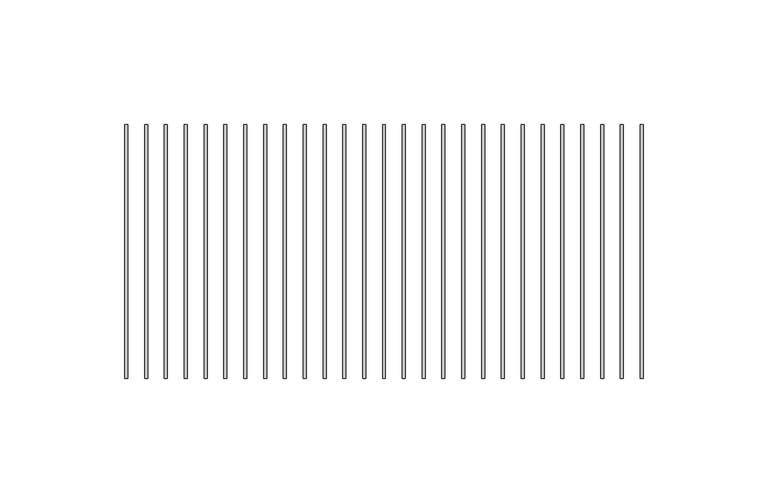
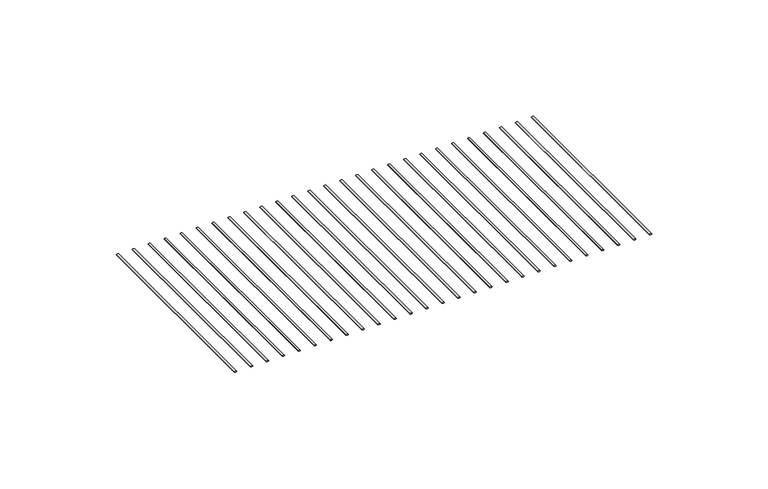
"""IFC4 building model written with IfcOpenShell, lengths in millimetres: proxy geometry, CRAi Generic Model Mesh Piece Face Based : CRAi Generic Model Mesh Piece Face Based."""

from ifc_helpers import new_model, si_unit, point, frame, origin, place, context, project, spatial, ellipse_curve, trimmed, source, transform, mapped, element, save
from ifc_brep_helpers import plane_surface, extruded_surface, advanced_brep


def generic_models_672f9cdd(model_context):
    return source(origin(), model_context, "Body", "AdvancedBrep", [
        advanced_brep(
        [(-260.1515625, 50.8, -2.5796875), (-258.9609375, 50.8, -2.5796875), (-260.1515625, -50.8, -2.5796875), (-258.9609375, -50.8, -2.5796875)],
        [
            (0, 1, ellipse_curve(frame((-259.55625, 50.8, -2.5796875), z_axis=(0.0, 1.0, 0.0), x_axis=(1.0, 0.0, 0.0)), 0.5953125, 0.1984375)),
            (1, 0, ellipse_curve(frame((-259.55625, 50.8, -2.5796875), z_axis=(0.0, 1.0, 0.0), x_axis=(1.0, 0.0, 0.0)), 0.5953125, 0.1984375)),
            (2, 3, ellipse_curve(frame((-259.55625, -50.8, -2.5796875), z_axis=(0.0, -1.0, 0.0), x_axis=(1.0, 0.0, 0.0)), 0.5953125, 0.1984375)),
            (3, 2, ellipse_curve(frame((-259.55625, -50.8, -2.5796875), z_axis=(0.0, -1.0, 0.0), x_axis=(1.0, 0.0, 0.0)), 0.5953125, 0.1984375)),
            (1, 3),
            (2, 0),
        ],
        [
            plane_surface(frame((-259.55625, 50.8, -2.5796875), z_axis=(0.0, 1.0, 0.0), x_axis=(0.0, 0.0, 1.0))),
            plane_surface(frame((-259.55625, -50.8, -2.5796875), z_axis=(0.0, -1.0, 0.0), x_axis=(0.0, 0.0, 1.0))),
            extruded_surface(trimmed(ellipse_curve(frame((-259.55625, 50.8, -2.5796875), z_axis=(0.0, -1.0, 0.0), x_axis=(1.0, 0.0, 0.0)), 0.5953125, 0.1984375), [point((-260.1515625, 50.8, -2.5796875))], [point((-258.9609375, 50.8, -2.5796875))], True, "CARTESIAN"), (0.0, -101.6, 0.0), 101.6),
            extruded_surface(trimmed(ellipse_curve(frame((-259.55625, 50.8, -2.5796875), z_axis=(0.0, -1.0, 0.0), x_axis=(1.0, 0.0, 0.0)), 0.5953125, 0.1984375), [point((-258.9609375, 50.8, -2.5796875))], [point((-260.1515625, 50.8, -2.5796875))], True, "CARTESIAN"), (0.0, -101.6, 0.0), 101.6),
        ],
        [
            (0, [[1, 2]]),
            (1, [[3, 4]]),
            (2, [[5, -3, 6, -2]]),
            (3, [[-6, -4, -5, -1]]),
        ],
    ),
        advanced_brep(
        [(-252.2140625, 50.8, -2.5796875), (-251.0234375, 50.8, -2.5796875), (-252.2140625, -50.8, -2.5796875), (-251.0234375, -50.8, -2.5796875)],
        [
            (0, 1, ellipse_curve(frame((-251.61875, 50.8, -2.5796875), z_axis=(0.0, 1.0, 0.0), x_axis=(1.0, 0.0, 0.0)), 0.5953125, 0.1984375)),
            (1, 0, ellipse_curve(frame((-251.61875, 50.8, -2.5796875), z_axis=(0.0, 1.0, 0.0), x_axis=(1.0, 0.0, 0.0)), 0.5953125, 0.1984375)),
            (2, 3, ellipse_curve(frame((-251.61875, -50.8, -2.5796875), z_axis=(0.0, -1.0, 0.0), x_axis=(1.0, 0.0, 0.0)), 0.5953125, 0.1984375)),
            (3, 2, ellipse_curve(frame((-251.61875, -50.8, -2.5796875), z_axis=(0.0, -1.0, 0.0), x_axis=(1.0, 0.0, 0.0)), 0.5953125, 0.1984375)),
            (1, 3),
            (2, 0),
        ],
        [
            plane_surface(frame((-251.61875, 50.8, -2.5796875), z_axis=(0.0, 1.0, 0.0), x_axis=(0.0, 0.0, 1.0))),
            plane_surface(frame((-251.61875, -50.8, -2.5796875), z_axis=(0.0, -1.0, 0.0), x_axis=(0.0, 0.0, 1.0))),
            extruded_surface(trimmed(ellipse_curve(frame((-251.61875, 50.8, -2.5796875), z_axis=(0.0, -1.0, 0.0), x_axis=(1.0, 0.0, 0.0)), 0.5953125, 0.1984375), [point((-252.2140625, 50.8, -2.5796875))], [point((-251.0234375, 50.8, -2.5796875))], True, "CARTESIAN"), (0.0, -101.6, 0.0), 101.6),
            extruded_surface(trimmed(ellipse_curve(frame((-251.61875, 50.8, -2.5796875), z_axis=(0.0, -1.0, 0.0), x_axis=(1.0, 0.0, 0.0)), 0.5953125, 0.1984375), [point((-251.0234375, 50.8, -2.5796875))], [point((-252.2140625, 50.8, -2.5796875))], True, "CARTESIAN"), (0.0, -101.6, 0.0), 101.6),
        ],
        [
            (0, [[1, 2]]),
            (1, [[3, 4]]),
            (2, [[5, -3, 6, -2]]),
            (3, [[-6, -4, -5, -1]]),
        ],
    ),
        advanced_brep(
        [(-244.2765625, 50.8, -2.5796875), (-243.0859375, 50.8, -2.5796875), (-244.2765625, -50.8, -2.5796875), (-243.0859375, -50.8, -2.5796875)],
        [
            (0, 1, ellipse_curve(frame((-243.68125, 50.8, -2.5796875), z_axis=(0.0, 1.0, 0.0), x_axis=(1.0, 0.0, 0.0)), 0.5953125, 0.1984375)),
            (1, 0, ellipse_curve(frame((-243.68125, 50.8, -2.5796875), z_axis=(0.0, 1.0, 0.0), x_axis=(1.0, 0.0, 0.0)), 0.5953125, 0.1984375)),
            (2, 3, ellipse_curve(frame((-243.68125, -50.8, -2.5796875), z_axis=(0.0, -1.0, 0.0), x_axis=(1.0, 0.0, 0.0)), 0.5953125, 0.1984375)),
            (3, 2, ellipse_curve(frame((-243.68125, -50.8, -2.5796875), z_axis=(0.0, -1.0, 0.0), x_axis=(1.0, 0.0, 0.0)), 0.5953125, 0.1984375)),
            (1, 3),
            (2, 0),
        ],
        [
            plane_surface(frame((-243.68125, 50.8, -2.5796875), z_axis=(0.0, 1.0, 0.0), x_axis=(0.0, 0.0, 1.0))),
            plane_surface(frame((-243.68125, -50.8, -2.5796875), z_axis=(0.0, -1.0, 0.0), x_axis=(0.0, 0.0, 1.0))),
            extruded_surface(trimmed(ellipse_curve(frame((-243.68125, 50.8, -2.5796875), z_axis=(0.0, -1.0, 0.0), x_axis=(1.0, 0.0, 0.0)), 0.5953125, 0.1984375), [point((-244.2765625, 50.8, -2.5796875))], [point((-243.0859375, 50.8, -2.5796875))], True, "CARTESIAN"), (0.0, -101.6, 0.0), 101.6),
            extruded_surface(trimmed(ellipse_curve(frame((-243.68125, 50.8, -2.5796875), z_axis=(0.0, -1.0, 0.0), x_axis=(1.0, 0.0, 0.0)), 0.5953125, 0.1984375), [point((-243.0859375, 50.8, -2.5796875))], [point((-244.2765625, 50.8, -2.5796875))], True, "CARTESIAN"), (0.0, -101.6, 0.0), 101.6),
        ],
        [
            (0, [[1, 2]]),
            (1, [[3, 4]]),
            (2, [[5, -3, 6, -2]]),
            (3, [[-6, -4, -5, -1]]),
        ],
    ),
        advanced_brep(
        [(-236.3390625, 50.8, -2.5796875), (-235.1484375, 50.8, -2.5796875), (-236.3390625, -50.8, -2.5796875), (-235.1484375, -50.8, -2.5796875)],
        [
            (0, 1, ellipse_curve(frame((-235.74375, 50.8, -2.5796875), z_axis=(0.0, 1.0, 0.0), x_axis=(1.0, 0.0, 0.0)), 0.5953125, 0.1984375)),
            (1, 0, ellipse_curve(frame((-235.74375, 50.8, -2.5796875), z_axis=(0.0, 1.0, 0.0), x_axis=(1.0, 0.0, 0.0)), 0.5953125, 0.1984375)),
            (2, 3, ellipse_curve(frame((-235.74375, -50.8, -2.5796875), z_axis=(0.0, -1.0, 0.0), x_axis=(1.0, 0.0, 0.0)), 0.5953125, 0.1984375)),
            (3, 2, ellipse_curve(frame((-235.74375, -50.8, -2.5796875), z_axis=(0.0, -1.0, 0.0), x_axis=(1.0, 0.0, 0.0)), 0.5953125, 0.1984375)),
            (1, 3),
            (2, 0),
        ],
        [
            plane_surface(frame((-235.74375, 50.8, -2.5796875), z_axis=(0.0, 1.0, 0.0), x_axis=(0.0, 0.0, 1.0))),
            plane_surface(frame((-235.74375, -50.8, -2.5796875), z_axis=(0.0, -1.0, 0.0), x_axis=(0.0, 0.0, 1.0))),
            extruded_surface(trimmed(ellipse_curve(frame((-235.74375, 50.8, -2.5796875), z_axis=(0.0, -1.0, 0.0), x_axis=(1.0, 0.0, 0.0)), 0.5953125, 0.1984375), [point((-236.3390625, 50.8, -2.5796875))], [point((-235.1484375, 50.8, -2.5796875))], True, "CARTESIAN"), (0.0, -101.6, 0.0), 101.6),
            extruded_surface(trimmed(ellipse_curve(frame((-235.74375, 50.8, -2.5796875), z_axis=(0.0, -1.0, 0.0), x_axis=(1.0, 0.0, 0.0)), 0.5953125, 0.1984375), [point((-235.1484375, 50.8, -2.5796875))], [point((-236.3390625, 50.8, -2.5796875))], True, "CARTESIAN"), (0.0, -101.6, 0.0), 101.6),
        ],
        [
            (0, [[1, 2]]),
            (1, [[3, 4]]),
            (2, [[5, -3, 6, -2]]),
            (3, [[-6, -4, -5, -1]]),
        ],
    ),
        advanced_brep(
        [(-228.4015625, 50.8, -2.5796875), (-227.2109375, 50.8, -2.5796875), (-228.4015625, -50.8, -2.5796875), (-227.2109375, -50.8, -2.5796875)],
        [
            (0, 1, ellipse_curve(frame((-227.80625, 50.8, -2.5796875), z_axis=(0.0, 1.0, 0.0), x_axis=(1.0, 0.0, 0.0)), 0.5953125, 0.1984375)),
            (1, 0, ellipse_curve(frame((-227.80625, 50.8, -2.5796875), z_axis=(0.0, 1.0, 0.0), x_axis=(1.0, 0.0, 0.0)), 0.5953125, 0.1984375)),
            (2, 3, ellipse_curve(frame((-227.80625, -50.8, -2.5796875), z_axis=(0.0, -1.0, 0.0), x_axis=(1.0, 0.0, 0.0)), 0.5953125, 0.1984375)),
            (3, 2, ellipse_curve(frame((-227.80625, -50.8, -2.5796875), z_axis=(0.0, -1.0, 0.0), x_axis=(1.0, 0.0, 0.0)), 0.5953125, 0.1984375)),
            (1, 3),
            (2, 0),
        ],
        [
            plane_surface(frame((-227.80625, 50.8, -2.5796875), z_axis=(0.0, 1.0, 0.0), x_axis=(0.0, 0.0, 1.0))),
            plane_surface(frame((-227.80625, -50.8, -2.5796875), z_axis=(0.0, -1.0, 0.0), x_axis=(0.0, 0.0, 1.0))),
            extruded_surface(trimmed(ellipse_curve(frame((-227.80625, 50.8, -2.5796875), z_axis=(0.0, -1.0, 0.0), x_axis=(1.0, 0.0, 0.0)), 0.5953125, 0.1984375), [point((-228.4015625, 50.8, -2.5796875))], [point((-227.2109375, 50.8, -2.5796875))], True, "CARTESIAN"), (0.0, -101.6, 0.0), 101.6),
            extruded_surface(trimmed(ellipse_curve(frame((-227.80625, 50.8, -2.5796875), z_axis=(0.0, -1.0, 0.0), x_axis=(1.0, 0.0, 0.0)), 0.5953125, 0.1984375), [point((-227.2109375, 50.8, -2.5796875))], [point((-228.4015625, 50.8, -2.5796875))], True, "CARTESIAN"), (0.0, -101.6, 0.0), 101.6),
        ],
        [
            (0, [[1, 2]]),
            (1, [[3, 4]]),
            (2, [[5, -3, 6, -2]]),
            (3, [[-6, -4, -5, -1]]),
        ],
    ),
        advanced_brep(
        [(-220.4640625, 50.8, -2.5796875), (-219.2734375, 50.8, -2.5796875), (-220.4640625, -50.8, -2.5796875), (-219.2734375, -50.8, -2.5796875)],
        [
            (0, 1, ellipse_curve(frame((-219.86875, 50.8, -2.5796875), z_axis=(0.0, 1.0, 0.0), x_axis=(1.0, 0.0, 0.0)), 0.5953125, 0.1984375)),
            (1, 0, ellipse_curve(frame((-219.86875, 50.8, -2.5796875), z_axis=(0.0, 1.0, 0.0), x_axis=(1.0, 0.0, 0.0)), 0.5953125, 0.1984375)),
            (2, 3, ellipse_curve(frame((-219.86875, -50.8, -2.5796875), z_axis=(0.0, -1.0, 0.0), x_axis=(1.0, 0.0, 0.0)), 0.5953125, 0.1984375)),
            (3, 2, ellipse_curve(frame((-219.86875, -50.8, -2.5796875), z_axis=(0.0, -1.0, 0.0), x_axis=(1.0, 0.0, 0.0)), 0.5953125, 0.1984375)),
            (1, 3),
            (2, 0),
        ],
        [
            plane_surface(frame((-219.86875, 50.8, -2.5796875), z_axis=(0.0, 1.0, 0.0), x_axis=(0.0, 0.0, 1.0))),
            plane_surface(frame((-219.86875, -50.8, -2.5796875), z_axis=(0.0, -1.0, 0.0), x_axis=(0.0, 0.0, 1.0))),
            extruded_surface(trimmed(ellipse_curve(frame((-219.86875, 50.8, -2.5796875), z_axis=(0.0, -1.0, 0.0), x_axis=(1.0, 0.0, 0.0)), 0.5953125, 0.1984375), [point((-220.4640625, 50.8, -2.5796875))], [point((-219.2734375, 50.8, -2.5796875))], True, "CARTESIAN"), (0.0, -101.6, 0.0), 101.6),
            extruded_surface(trimmed(ellipse_curve(frame((-219.86875, 50.8, -2.5796875), z_axis=(0.0, -1.0, 0.0), x_axis=(1.0, 0.0, 0.0)), 0.5953125, 0.1984375), [point((-219.2734375, 50.8, -2.5796875))], [point((-220.4640625, 50.8, -2.5796875))], True, "CARTESIAN"), (0.0, -101.6, 0.0), 101.6),
        ],
        [
            (0, [[1, 2]]),
            (1, [[3, 4]]),
            (2, [[5, -3, 6, -2]]),
            (3, [[-6, -4, -5, -1]]),
        ],
    ),
        advanced_brep(
        [(-212.5265625, 50.8, -2.5796875), (-211.3359375, 50.8, -2.5796875), (-212.5265625, -50.8, -2.5796875), (-211.3359375, -50.8, -2.5796875)],
        [
            (0, 1, ellipse_curve(frame((-211.93125, 50.8, -2.5796875), z_axis=(0.0, 1.0, 0.0), x_axis=(1.0, 0.0, 0.0)), 0.5953125, 0.1984375)),
            (1, 0, ellipse_curve(frame((-211.93125, 50.8, -2.5796875), z_axis=(0.0, 1.0, 0.0), x_axis=(1.0, 0.0, 0.0)), 0.5953125, 0.1984375)),
            (2, 3, ellipse_curve(frame((-211.93125, -50.8, -2.5796875), z_axis=(0.0, -1.0, 0.0), x_axis=(1.0, 0.0, 0.0)), 0.5953125, 0.1984375)),
            (3, 2, ellipse_curve(frame((-211.93125, -50.8, -2.5796875), z_axis=(0.0, -1.0, 0.0), x_axis=(1.0, 0.0, 0.0)), 0.5953125, 0.1984375)),
            (1, 3),
            (2, 0),
        ],
        [
            plane_surface(frame((-211.93125, 50.8, -2.5796875), z_axis=(0.0, 1.0, 0.0), x_axis=(0.0, 0.0, 1.0))),
            plane_surface(frame((-211.93125, -50.8, -2.5796875), z_axis=(0.0, -1.0, 0.0), x_axis=(0.0, 0.0, 1.0))),
            extruded_surface(trimmed(ellipse_curve(frame((-211.93125, 50.8, -2.5796875), z_axis=(0.0, -1.0, 0.0), x_axis=(1.0, 0.0, 0.0)), 0.5953125, 0.1984375), [point((-212.5265625, 50.8, -2.5796875))], [point((-211.3359375, 50.8, -2.5796875))], True, "CARTESIAN"), (0.0, -101.6, 0.0), 101.6),
            extruded_surface(trimmed(ellipse_curve(frame((-211.93125, 50.8, -2.5796875), z_axis=(0.0, -1.0, 0.0), x_axis=(1.0, 0.0, 0.0)), 0.5953125, 0.1984375), [point((-211.3359375, 50.8, -2.5796875))], [point((-212.5265625, 50.8, -2.5796875))], True, "CARTESIAN"), (0.0, -101.6, 0.0), 101.6),
        ],
        [
            (0, [[1, 2]]),
            (1, [[3, 4]]),
            (2, [[5, -3, 6, -2]]),
            (3, [[-6, -4, -5, -1]]),
        ],
    ),
        advanced_brep(
        [(-204.5890625, 50.8, -2.5796875), (-203.3984375, 50.8, -2.5796875), (-204.5890625, -50.8, -2.5796875), (-203.3984375, -50.8, -2.5796875)],
        [
            (0, 1, ellipse_curve(frame((-203.99375, 50.8, -2.5796875), z_axis=(0.0, 1.0, 0.0), x_axis=(1.0, 0.0, 0.0)), 0.5953125, 0.1984375)),
            (1, 0, ellipse_curve(frame((-203.99375, 50.8, -2.5796875), z_axis=(0.0, 1.0, 0.0), x_axis=(1.0, 0.0, 0.0)), 0.5953125, 0.1984375)),
            (2, 3, ellipse_curve(frame((-203.99375, -50.8, -2.5796875), z_axis=(0.0, -1.0, 0.0), x_axis=(1.0, 0.0, 0.0)), 0.5953125, 0.1984375)),
            (3, 2, ellipse_curve(frame((-203.99375, -50.8, -2.5796875), z_axis=(0.0, -1.0, 0.0), x_axis=(1.0, 0.0, 0.0)), 0.5953125, 0.1984375)),
            (1, 3),
            (2, 0),
        ],
        [
            plane_surface(frame((-203.99375, 50.8, -2.5796875), z_axis=(0.0, 1.0, 0.0), x_axis=(0.0, 0.0, 1.0))),
            plane_surface(frame((-203.99375, -50.8, -2.5796875), z_axis=(0.0, -1.0, 0.0), x_axis=(0.0, 0.0, 1.0))),
            extruded_surface(trimmed(ellipse_curve(frame((-203.99375, 50.8, -2.5796875), z_axis=(0.0, -1.0, 0.0), x_axis=(1.0, 0.0, 0.0)), 0.5953125, 0.1984375), [point((-204.5890625, 50.8, -2.5796875))], [point((-203.3984375, 50.8, -2.5796875))], True, "CARTESIAN"), (0.0, -101.6, 0.0), 101.6),
            extruded_surface(trimmed(ellipse_curve(frame((-203.99375, 50.8, -2.5796875), z_axis=(0.0, -1.0, 0.0), x_axis=(1.0, 0.0, 0.0)), 0.5953125, 0.1984375), [point((-203.3984375, 50.8, -2.5796875))], [point((-204.5890625, 50.8, -2.5796875))], True, "CARTESIAN"), (0.0, -101.6, 0.0), 101.6),
        ],
        [
            (0, [[1, 2]]),
            (1, [[3, 4]]),
            (2, [[5, -3, 6, -2]]),
            (3, [[-6, -4, -5, -1]]),
        ],
    ),
        advanced_brep(
        [(-196.6515625, 50.8, -2.5796875), (-195.4609375, 50.8, -2.5796875), (-196.6515625, -50.8, -2.5796875), (-195.4609375, -50.8, -2.5796875)],
        [
            (0, 1, ellipse_curve(frame((-196.05625, 50.8, -2.5796875), z_axis=(0.0, 1.0, 0.0), x_axis=(1.0, 0.0, 0.0)), 0.5953125, 0.1984375)),
            (1, 0, ellipse_curve(frame((-196.05625, 50.8, -2.5796875), z_axis=(0.0, 1.0, 0.0), x_axis=(1.0, 0.0, 0.0)), 0.5953125, 0.1984375)),
            (2, 3, ellipse_curve(frame((-196.05625, -50.8, -2.5796875), z_axis=(0.0, -1.0, 0.0), x_axis=(1.0, 0.0, 0.0)), 0.5953125, 0.1984375)),
            (3, 2, ellipse_curve(frame((-196.05625, -50.8, -2.5796875), z_axis=(0.0, -1.0, 0.0), x_axis=(1.0, 0.0, 0.0)), 0.5953125, 0.1984375)),
            (1, 3),
            (2, 0),
        ],
        [
            plane_surface(frame((-196.05625, 50.8, -2.5796875), z_axis=(0.0, 1.0, 0.0), x_axis=(0.0, 0.0, 1.0))),
            plane_surface(frame((-196.05625, -50.8, -2.5796875), z_axis=(0.0, -1.0, 0.0), x_axis=(0.0, 0.0, 1.0))),
            extruded_surface(trimmed(ellipse_curve(frame((-196.05625, 50.8, -2.5796875), z_axis=(0.0, -1.0, 0.0), x_axis=(1.0, 0.0, 0.0)), 0.5953125, 0.1984375), [point((-196.6515625, 50.8, -2.5796875))], [point((-195.4609375, 50.8, -2.5796875))], True, "CARTESIAN"), (0.0, -101.6, 0.0), 101.6),
            extruded_surface(trimmed(ellipse_curve(frame((-196.05625, 50.8, -2.5796875), z_axis=(0.0, -1.0, 0.0), x_axis=(1.0, 0.0, 0.0)), 0.5953125, 0.1984375), [point((-195.4609375, 50.8, -2.5796875))], [point((-196.6515625, 50.8, -2.5796875))], True, "CARTESIAN"), (0.0, -101.6, 0.0), 101.6),
        ],
        [
            (0, [[1, 2]]),
            (1, [[3, 4]]),
            (2, [[5, -3, 6, -2]]),
            (3, [[-6, -4, -5, -1]]),
        ],
    ),
        advanced_brep(
        [(-188.7140625, 50.8, -2.5796875), (-187.5234375, 50.8, -2.5796875), (-188.7140625, -50.8, -2.5796875), (-187.5234375, -50.8, -2.5796875)],
        [
            (0, 1, ellipse_curve(frame((-188.11875, 50.8, -2.5796875), z_axis=(0.0, 1.0, 0.0), x_axis=(1.0, 0.0, 0.0)), 0.5953125, 0.1984375)),
            (1, 0, ellipse_curve(frame((-188.11875, 50.8, -2.5796875), z_axis=(0.0, 1.0, 0.0), x_axis=(1.0, 0.0, 0.0)), 0.5953125, 0.1984375)),
            (2, 3, ellipse_curve(frame((-188.11875, -50.8, -2.5796875), z_axis=(0.0, -1.0, 0.0), x_axis=(1.0, 0.0, 0.0)), 0.5953125, 0.1984375)),
            (3, 2, ellipse_curve(frame((-188.11875, -50.8, -2.5796875), z_axis=(0.0, -1.0, 0.0), x_axis=(1.0, 0.0, 0.0)), 0.5953125, 0.1984375)),
            (1, 3),
            (2, 0),
        ],
        [
            plane_surface(frame((-188.11875, 50.8, -2.5796875), z_axis=(0.0, 1.0, 0.0), x_axis=(0.0, 0.0, 1.0))),
            plane_surface(frame((-188.11875, -50.8, -2.5796875), z_axis=(0.0, -1.0, 0.0), x_axis=(0.0, 0.0, 1.0))),
            extruded_surface(trimmed(ellipse_curve(frame((-188.11875, 50.8, -2.5796875), z_axis=(0.0, -1.0, 0.0), x_axis=(1.0, 0.0, 0.0)), 0.5953125, 0.1984375), [point((-188.7140625, 50.8, -2.5796875))], [point((-187.5234375, 50.8, -2.5796875))], True, "CARTESIAN"), (0.0, -101.6, 0.0), 101.6),
            extruded_surface(trimmed(ellipse_curve(frame((-188.11875, 50.8, -2.5796875), z_axis=(0.0, -1.0, 0.0), x_axis=(1.0, 0.0, 0.0)), 0.5953125, 0.1984375), [point((-187.5234375, 50.8, -2.5796875))], [point((-188.7140625, 50.8, -2.5796875))], True, "CARTESIAN"), (0.0, -101.6, 0.0), 101.6),
        ],
        [
            (0, [[1, 2]]),
            (1, [[3, 4]]),
            (2, [[5, -3, 6, -2]]),
            (3, [[-6, -4, -5, -1]]),
        ],
    ),
        advanced_brep(
        [(-180.7765625, 50.8, -2.5796875), (-179.5859375, 50.8, -2.5796875), (-180.7765625, -50.8, -2.5796875), (-179.5859375, -50.8, -2.5796875)],
        [
            (0, 1, ellipse_curve(frame((-180.18125, 50.8, -2.5796875), z_axis=(0.0, 1.0, 0.0), x_axis=(1.0, 0.0, 0.0)), 0.5953125, 0.1984375)),
            (1, 0, ellipse_curve(frame((-180.18125, 50.8, -2.5796875), z_axis=(0.0, 1.0, 0.0), x_axis=(1.0, 0.0, 0.0)), 0.5953125, 0.1984375)),
            (2, 3, ellipse_curve(frame((-180.18125, -50.8, -2.5796875), z_axis=(0.0, -1.0, 0.0), x_axis=(1.0, 0.0, 0.0)), 0.5953125, 0.1984375)),
            (3, 2, ellipse_curve(frame((-180.18125, -50.8, -2.5796875), z_axis=(0.0, -1.0, 0.0), x_axis=(1.0, 0.0, 0.0)), 0.5953125, 0.1984375)),
            (1, 3),
            (2, 0),
        ],
        [
            plane_surface(frame((-180.18125, 50.8, -2.5796875), z_axis=(0.0, 1.0, 0.0), x_axis=(0.0, 0.0, 1.0))),
            plane_surface(frame((-180.18125, -50.8, -2.5796875), z_axis=(0.0, -1.0, 0.0), x_axis=(0.0, 0.0, 1.0))),
            extruded_surface(trimmed(ellipse_curve(frame((-180.18125, 50.8, -2.5796875), z_axis=(0.0, -1.0, 0.0), x_axis=(1.0, 0.0, 0.0)), 0.5953125, 0.1984375), [point((-180.7765625, 50.8, -2.5796875))], [point((-179.5859375, 50.8, -2.5796875))], True, "CARTESIAN"), (0.0, -101.6, 0.0), 101.6),
            extruded_surface(trimmed(ellipse_curve(frame((-180.18125, 50.8, -2.5796875), z_axis=(0.0, -1.0, 0.0), x_axis=(1.0, 0.0, 0.0)), 0.5953125, 0.1984375), [point((-179.5859375, 50.8, -2.5796875))], [point((-180.7765625, 50.8, -2.5796875))], True, "CARTESIAN"), (0.0, -101.6, 0.0), 101.6),
        ],
        [
            (0, [[1, 2]]),
            (1, [[3, 4]]),
            (2, [[5, -3, 6, -2]]),
            (3, [[-6, -4, -5, -1]]),
        ],
    ),
        advanced_brep(
        [(-172.8390625, 50.8, -2.5796875), (-171.6484375, 50.8, -2.5796875), (-172.8390625, -50.8, -2.5796875), (-171.6484375, -50.8, -2.5796875)],
        [
            (0, 1, ellipse_curve(frame((-172.24375, 50.8, -2.5796875), z_axis=(0.0, 1.0, 0.0), x_axis=(1.0, 0.0, 0.0)), 0.5953125, 0.1984375)),
            (1, 0, ellipse_curve(frame((-172.24375, 50.8, -2.5796875), z_axis=(0.0, 1.0, 0.0), x_axis=(1.0, 0.0, 0.0)), 0.5953125, 0.1984375)),
            (2, 3, ellipse_curve(frame((-172.24375, -50.8, -2.5796875), z_axis=(0.0, -1.0, 0.0), x_axis=(1.0, 0.0, 0.0)), 0.5953125, 0.1984375)),
            (3, 2, ellipse_curve(frame((-172.24375, -50.8, -2.5796875), z_axis=(0.0, -1.0, 0.0), x_axis=(1.0, 0.0, 0.0)), 0.5953125, 0.1984375)),
            (1, 3),
            (2, 0),
        ],
        [
            plane_surface(frame((-172.24375, 50.8, -2.5796875), z_axis=(0.0, 1.0, 0.0), x_axis=(0.0, 0.0, 1.0))),
            plane_surface(frame((-172.24375, -50.8, -2.5796875), z_axis=(0.0, -1.0, 0.0), x_axis=(0.0, 0.0, 1.0))),
            extruded_surface(trimmed(ellipse_curve(frame((-172.24375, 50.8, -2.5796875), z_axis=(0.0, -1.0, 0.0), x_axis=(1.0, 0.0, 0.0)), 0.5953125, 0.1984375), [point((-172.8390625, 50.8, -2.5796875))], [point((-171.6484375, 50.8, -2.5796875))], True, "CARTESIAN"), (0.0, -101.6, 0.0), 101.6),
            extruded_surface(trimmed(ellipse_curve(frame((-172.24375, 50.8, -2.5796875), z_axis=(0.0, -1.0, 0.0), x_axis=(1.0, 0.0, 0.0)), 0.5953125, 0.1984375), [point((-171.6484375, 50.8, -2.5796875))], [point((-172.8390625, 50.8, -2.5796875))], True, "CARTESIAN"), (0.0, -101.6, 0.0), 101.6),
        ],
        [
            (0, [[1, 2]]),
            (1, [[3, 4]]),
            (2, [[5, -3, 6, -2]]),
            (3, [[-6, -4, -5, -1]]),
        ],
    ),
        advanced_brep(
        [(-164.9015625, 50.8, -2.5796875), (-163.7109375, 50.8, -2.5796875), (-164.9015625, -50.8, -2.5796875), (-163.7109375, -50.8, -2.5796875)],
        [
            (0, 1, ellipse_curve(frame((-164.30625, 50.8, -2.5796875), z_axis=(0.0, 1.0, 0.0), x_axis=(1.0, 0.0, 0.0)), 0.5953125, 0.1984375)),
            (1, 0, ellipse_curve(frame((-164.30625, 50.8, -2.5796875), z_axis=(0.0, 1.0, 0.0), x_axis=(1.0, 0.0, 0.0)), 0.5953125, 0.1984375)),
            (2, 3, ellipse_curve(frame((-164.30625, -50.8, -2.5796875), z_axis=(0.0, -1.0, 0.0), x_axis=(1.0, 0.0, 0.0)), 0.5953125, 0.1984375)),
            (3, 2, ellipse_curve(frame((-164.30625, -50.8, -2.5796875), z_axis=(0.0, -1.0, 0.0), x_axis=(1.0, 0.0, 0.0)), 0.5953125, 0.1984375)),
            (1, 3),
            (2, 0),
        ],
        [
            plane_surface(frame((-164.30625, 50.8, -2.5796875), z_axis=(0.0, 1.0, 0.0), x_axis=(0.0, 0.0, 1.0))),
            plane_surface(frame((-164.30625, -50.8, -2.5796875), z_axis=(0.0, -1.0, 0.0), x_axis=(0.0, 0.0, 1.0))),
            extruded_surface(trimmed(ellipse_curve(frame((-164.30625, 50.8, -2.5796875), z_axis=(0.0, -1.0, 0.0), x_axis=(1.0, 0.0, 0.0)), 0.5953125, 0.1984375), [point((-164.9015625, 50.8, -2.5796875))], [point((-163.7109375, 50.8, -2.5796875))], True, "CARTESIAN"), (0.0, -101.6, 0.0), 101.6),
            extruded_surface(trimmed(ellipse_curve(frame((-164.30625, 50.8, -2.5796875), z_axis=(0.0, -1.0, 0.0), x_axis=(1.0, 0.0, 0.0)), 0.5953125, 0.1984375), [point((-163.7109375, 50.8, -2.5796875))], [point((-164.9015625, 50.8, -2.5796875))], True, "CARTESIAN"), (0.0, -101.6, 0.0), 101.6),
        ],
        [
            (0, [[1, 2]]),
            (1, [[3, 4]]),
            (2, [[5, -3, 6, -2]]),
            (3, [[-6, -4, -5, -1]]),
        ],
    ),
        advanced_brep(
        [(-156.9640625, 50.8, -2.5796875), (-155.7734375, 50.8, -2.5796875), (-156.9640625, -50.8, -2.5796875), (-155.7734375, -50.8, -2.5796875)],
        [
            (0, 1, ellipse_curve(frame((-156.36875, 50.8, -2.5796875), z_axis=(0.0, 1.0, 0.0), x_axis=(1.0, 0.0, 0.0)), 0.5953125, 0.1984375)),
            (1, 0, ellipse_curve(frame((-156.36875, 50.8, -2.5796875), z_axis=(0.0, 1.0, 0.0), x_axis=(1.0, 0.0, 0.0)), 0.5953125, 0.1984375)),
            (2, 3, ellipse_curve(frame((-156.36875, -50.8, -2.5796875), z_axis=(0.0, -1.0, 0.0), x_axis=(1.0, 0.0, 0.0)), 0.5953125, 0.1984375)),
            (3, 2, ellipse_curve(frame((-156.36875, -50.8, -2.5796875), z_axis=(0.0, -1.0, 0.0), x_axis=(1.0, 0.0, 0.0)), 0.5953125, 0.1984375)),
            (1, 3),
            (2, 0),
        ],
        [
            plane_surface(frame((-156.36875, 50.8, -2.5796875), z_axis=(0.0, 1.0, 0.0), x_axis=(0.0, 0.0, 1.0))),
            plane_surface(frame((-156.36875, -50.8, -2.5796875), z_axis=(0.0, -1.0, 0.0), x_axis=(0.0, 0.0, 1.0))),
            extruded_surface(trimmed(ellipse_curve(frame((-156.36875, 50.8, -2.5796875), z_axis=(0.0, -1.0, 0.0), x_axis=(1.0, 0.0, 0.0)), 0.5953125, 0.1984375), [point((-156.9640625, 50.8, -2.5796875))], [point((-155.7734375, 50.8, -2.5796875))], True, "CARTESIAN"), (0.0, -101.6, 0.0), 101.6),
            extruded_surface(trimmed(ellipse_curve(frame((-156.36875, 50.8, -2.5796875), z_axis=(0.0, -1.0, 0.0), x_axis=(1.0, 0.0, 0.0)), 0.5953125, 0.1984375), [point((-155.7734375, 50.8, -2.5796875))], [point((-156.9640625, 50.8, -2.5796875))], True, "CARTESIAN"), (0.0, -101.6, 0.0), 101.6),
        ],
        [
            (0, [[1, 2]]),
            (1, [[3, 4]]),
            (2, [[5, -3, 6, -2]]),
            (3, [[-6, -4, -5, -1]]),
        ],
    ),
        advanced_brep(
        [(-149.0265625, 50.8, -2.5796875), (-147.8359375, 50.8, -2.5796875), (-149.0265625, -50.8, -2.5796875), (-147.8359375, -50.8, -2.5796875)],
        [
            (0, 1, ellipse_curve(frame((-148.43125, 50.8, -2.5796875), z_axis=(0.0, 1.0, 0.0), x_axis=(1.0, 0.0, 0.0)), 0.5953125, 0.1984375)),
            (1, 0, ellipse_curve(frame((-148.43125, 50.8, -2.5796875), z_axis=(0.0, 1.0, 0.0), x_axis=(1.0, 0.0, 0.0)), 0.5953125, 0.1984375)),
            (2, 3, ellipse_curve(frame((-148.43125, -50.8, -2.5796875), z_axis=(0.0, -1.0, 0.0), x_axis=(1.0, 0.0, 0.0)), 0.5953125, 0.1984375)),
            (3, 2, ellipse_curve(frame((-148.43125, -50.8, -2.5796875), z_axis=(0.0, -1.0, 0.0), x_axis=(1.0, 0.0, 0.0)), 0.5953125, 0.1984375)),
            (1, 3),
            (2, 0),
        ],
        [
            plane_surface(frame((-148.43125, 50.8, -2.5796875), z_axis=(0.0, 1.0, 0.0), x_axis=(0.0, 0.0, 1.0))),
            plane_surface(frame((-148.43125, -50.8, -2.5796875), z_axis=(0.0, -1.0, 0.0), x_axis=(0.0, 0.0, 1.0))),
            extruded_surface(trimmed(ellipse_curve(frame((-148.43125, 50.8, -2.5796875), z_axis=(0.0, -1.0, 0.0), x_axis=(1.0, 0.0, 0.0)), 0.5953125, 0.1984375), [point((-149.0265625, 50.8, -2.5796875))], [point((-147.8359375, 50.8, -2.5796875))], True, "CARTESIAN"), (0.0, -101.6, 0.0), 101.6),
            extruded_surface(trimmed(ellipse_curve(frame((-148.43125, 50.8, -2.5796875), z_axis=(0.0, -1.0, 0.0), x_axis=(1.0, 0.0, 0.0)), 0.5953125, 0.1984375), [point((-147.8359375, 50.8, -2.5796875))], [point((-149.0265625, 50.8, -2.5796875))], True, "CARTESIAN"), (0.0, -101.6, 0.0), 101.6),
        ],
        [
            (0, [[1, 2]]),
            (1, [[3, 4]]),
            (2, [[5, -3, 6, -2]]),
            (3, [[-6, -4, -5, -1]]),
        ],
    ),
        advanced_brep(
        [(-141.0890625, 50.8, -2.5796875), (-139.8984375, 50.8, -2.5796875), (-141.0890625, -50.8, -2.5796875), (-139.8984375, -50.8, -2.5796875)],
        [
            (0, 1, ellipse_curve(frame((-140.49375, 50.8, -2.5796875), z_axis=(0.0, 1.0, 0.0), x_axis=(1.0, 0.0, 0.0)), 0.5953125, 0.1984375)),
            (1, 0, ellipse_curve(frame((-140.49375, 50.8, -2.5796875), z_axis=(0.0, 1.0, 0.0), x_axis=(1.0, 0.0, 0.0)), 0.5953125, 0.1984375)),
            (2, 3, ellipse_curve(frame((-140.49375, -50.8, -2.5796875), z_axis=(0.0, -1.0, 0.0), x_axis=(1.0, 0.0, 0.0)), 0.5953125, 0.1984375)),
            (3, 2, ellipse_curve(frame((-140.49375, -50.8, -2.5796875), z_axis=(0.0, -1.0, 0.0), x_axis=(1.0, 0.0, 0.0)), 0.5953125, 0.1984375)),
            (1, 3),
            (2, 0),
        ],
        [
            plane_surface(frame((-140.49375, 50.8, -2.5796875), z_axis=(0.0, 1.0, 0.0), x_axis=(0.0, 0.0, 1.0))),
            plane_surface(frame((-140.49375, -50.8, -2.5796875), z_axis=(0.0, -1.0, 0.0), x_axis=(0.0, 0.0, 1.0))),
            extruded_surface(trimmed(ellipse_curve(frame((-140.49375, 50.8, -2.5796875), z_axis=(0.0, -1.0, 0.0), x_axis=(1.0, 0.0, 0.0)), 0.5953125, 0.1984375), [point((-141.0890625, 50.8, -2.5796875))], [point((-139.8984375, 50.8, -2.5796875))], True, "CARTESIAN"), (0.0, -101.6, 0.0), 101.6),
            extruded_surface(trimmed(ellipse_curve(frame((-140.49375, 50.8, -2.5796875), z_axis=(0.0, -1.0, 0.0), x_axis=(1.0, 0.0, 0.0)), 0.5953125, 0.1984375), [point((-139.8984375, 50.8, -2.5796875))], [point((-141.0890625, 50.8, -2.5796875))], True, "CARTESIAN"), (0.0, -101.6, 0.0), 101.6),
        ],
        [
            (0, [[1, 2]]),
            (1, [[3, 4]]),
            (2, [[5, -3, 6, -2]]),
            (3, [[-6, -4, -5, -1]]),
        ],
    ),
        advanced_brep(
        [(-133.1515625, 50.8, -2.5796875), (-131.9609375, 50.8, -2.5796875), (-133.1515625, -50.8, -2.5796875), (-131.9609375, -50.8, -2.5796875)],
        [
            (0, 1, ellipse_curve(frame((-132.55625, 50.8, -2.5796875), z_axis=(0.0, 1.0, 0.0), x_axis=(1.0, 0.0, 0.0)), 0.5953125, 0.1984375)),
            (1, 0, ellipse_curve(frame((-132.55625, 50.8, -2.5796875), z_axis=(0.0, 1.0, 0.0), x_axis=(1.0, 0.0, 0.0)), 0.5953125, 0.1984375)),
            (2, 3, ellipse_curve(frame((-132.55625, -50.8, -2.5796875), z_axis=(0.0, -1.0, 0.0), x_axis=(1.0, 0.0, 0.0)), 0.5953125, 0.1984375)),
            (3, 2, ellipse_curve(frame((-132.55625, -50.8, -2.5796875), z_axis=(0.0, -1.0, 0.0), x_axis=(1.0, 0.0, 0.0)), 0.5953125, 0.1984375)),
            (1, 3),
            (2, 0),
        ],
        [
            plane_surface(frame((-132.55625, 50.8, -2.5796875), z_axis=(0.0, 1.0, 0.0), x_axis=(0.0, 0.0, 1.0))),
            plane_surface(frame((-132.55625, -50.8, -2.5796875), z_axis=(0.0, -1.0, 0.0), x_axis=(0.0, 0.0, 1.0))),
            extruded_surface(trimmed(ellipse_curve(frame((-132.55625, 50.8, -2.5796875), z_axis=(0.0, -1.0, 0.0), x_axis=(1.0, 0.0, 0.0)), 0.5953125, 0.1984375), [point((-133.1515625, 50.8, -2.5796875))], [point((-131.9609375, 50.8, -2.5796875))], True, "CARTESIAN"), (0.0, -101.6, 0.0), 101.6),
            extruded_surface(trimmed(ellipse_curve(frame((-132.55625, 50.8, -2.5796875), z_axis=(0.0, -1.0, 0.0), x_axis=(1.0, 0.0, 0.0)), 0.5953125, 0.1984375), [point((-131.9609375, 50.8, -2.5796875))], [point((-133.1515625, 50.8, -2.5796875))], True, "CARTESIAN"), (0.0, -101.6, 0.0), 101.6),
        ],
        [
            (0, [[1, 2]]),
            (1, [[3, 4]]),
            (2, [[5, -3, 6, -2]]),
            (3, [[-6, -4, -5, -1]]),
        ],
    ),
        advanced_brep(
        [(-125.2140625, 50.8, -2.5796875), (-124.0234375, 50.8, -2.5796875), (-125.2140625, -50.8, -2.5796875), (-124.0234375, -50.8, -2.5796875)],
        [
            (0, 1, ellipse_curve(frame((-124.61875, 50.8, -2.5796875), z_axis=(0.0, 1.0, 0.0), x_axis=(1.0, 0.0, 0.0)), 0.5953125, 0.1984375)),
            (1, 0, ellipse_curve(frame((-124.61875, 50.8, -2.5796875), z_axis=(0.0, 1.0, 0.0), x_axis=(1.0, 0.0, 0.0)), 0.5953125, 0.1984375)),
            (2, 3, ellipse_curve(frame((-124.61875, -50.8, -2.5796875), z_axis=(0.0, -1.0, 0.0), x_axis=(1.0, 0.0, 0.0)), 0.5953125, 0.1984375)),
            (3, 2, ellipse_curve(frame((-124.61875, -50.8, -2.5796875), z_axis=(0.0, -1.0, 0.0), x_axis=(1.0, 0.0, 0.0)), 0.5953125, 0.1984375)),
            (1, 3),
            (2, 0),
        ],
        [
            plane_surface(frame((-124.61875, 50.8, -2.5796875), z_axis=(0.0, 1.0, 0.0), x_axis=(0.0, 0.0, 1.0))),
            plane_surface(frame((-124.61875, -50.8, -2.5796875), z_axis=(0.0, -1.0, 0.0), x_axis=(0.0, 0.0, 1.0))),
            extruded_surface(trimmed(ellipse_curve(frame((-124.61875, 50.8, -2.5796875), z_axis=(0.0, -1.0, 0.0), x_axis=(1.0, 0.0, 0.0)), 0.5953125, 0.1984375), [point((-125.2140625, 50.8, -2.5796875))], [point((-124.0234375, 50.8, -2.5796875))], True, "CARTESIAN"), (0.0, -101.6, 0.0), 101.6),
            extruded_surface(trimmed(ellipse_curve(frame((-124.61875, 50.8, -2.5796875), z_axis=(0.0, -1.0, 0.0), x_axis=(1.0, 0.0, 0.0)), 0.5953125, 0.1984375), [point((-124.0234375, 50.8, -2.5796875))], [point((-125.2140625, 50.8, -2.5796875))], True, "CARTESIAN"), (0.0, -101.6, 0.0), 101.6),
        ],
        [
            (0, [[1, 2]]),
            (1, [[3, 4]]),
            (2, [[5, -3, 6, -2]]),
            (3, [[-6, -4, -5, -1]]),
        ],
    ),
        advanced_brep(
        [(-117.2765625, 50.8, -2.5796875), (-116.0859375, 50.8, -2.5796875), (-117.2765625, -50.8, -2.5796875), (-116.0859375, -50.8, -2.5796875)],
        [
            (0, 1, ellipse_curve(frame((-116.68125, 50.8, -2.5796875), z_axis=(0.0, 1.0, 0.0), x_axis=(1.0, 0.0, 0.0)), 0.5953125, 0.1984375)),
            (1, 0, ellipse_curve(frame((-116.68125, 50.8, -2.5796875), z_axis=(0.0, 1.0, 0.0), x_axis=(1.0, 0.0, 0.0)), 0.5953125, 0.1984375)),
            (2, 3, ellipse_curve(frame((-116.68125, -50.8, -2.5796875), z_axis=(0.0, -1.0, 0.0), x_axis=(1.0, 0.0, 0.0)), 0.5953125, 0.1984375)),
            (3, 2, ellipse_curve(frame((-116.68125, -50.8, -2.5796875), z_axis=(0.0, -1.0, 0.0), x_axis=(1.0, 0.0, 0.0)), 0.5953125, 0.1984375)),
            (1, 3),
            (2, 0),
        ],
        [
            plane_surface(frame((-116.68125, 50.8, -2.5796875), z_axis=(0.0, 1.0, 0.0), x_axis=(0.0, 0.0, 1.0))),
            plane_surface(frame((-116.68125, -50.8, -2.5796875), z_axis=(0.0, -1.0, 0.0), x_axis=(0.0, 0.0, 1.0))),
            extruded_surface(trimmed(ellipse_curve(frame((-116.68125, 50.8, -2.5796875), z_axis=(0.0, -1.0, 0.0), x_axis=(1.0, 0.0, 0.0)), 0.5953125, 0.1984375), [point((-117.2765625, 50.8, -2.5796875))], [point((-116.0859375, 50.8, -2.5796875))], True, "CARTESIAN"), (0.0, -101.6, 0.0), 101.6),
            extruded_surface(trimmed(ellipse_curve(frame((-116.68125, 50.8, -2.5796875), z_axis=(0.0, -1.0, 0.0), x_axis=(1.0, 0.0, 0.0)), 0.5953125, 0.1984375), [point((-116.0859375, 50.8, -2.5796875))], [point((-117.2765625, 50.8, -2.5796875))], True, "CARTESIAN"), (0.0, -101.6, 0.0), 101.6),
        ],
        [
            (0, [[1, 2]]),
            (1, [[3, 4]]),
            (2, [[5, -3, 6, -2]]),
            (3, [[-6, -4, -5, -1]]),
        ],
    ),
        advanced_brep(
        [(-109.3390625, 50.8, -2.5796875), (-108.1484375, 50.8, -2.5796875), (-109.3390625, -50.8, -2.5796875), (-108.1484375, -50.8, -2.5796875)],
        [
            (0, 1, ellipse_curve(frame((-108.74375, 50.8, -2.5796875), z_axis=(0.0, 1.0, 0.0), x_axis=(1.0, 0.0, 0.0)), 0.5953125, 0.1984375)),
            (1, 0, ellipse_curve(frame((-108.74375, 50.8, -2.5796875), z_axis=(0.0, 1.0, 0.0), x_axis=(1.0, 0.0, 0.0)), 0.5953125, 0.1984375)),
            (2, 3, ellipse_curve(frame((-108.74375, -50.8, -2.5796875), z_axis=(0.0, -1.0, 0.0), x_axis=(1.0, 0.0, 0.0)), 0.5953125, 0.1984375)),
            (3, 2, ellipse_curve(frame((-108.74375, -50.8, -2.5796875), z_axis=(0.0, -1.0, 0.0), x_axis=(1.0, 0.0, 0.0)), 0.5953125, 0.1984375)),
            (1, 3),
            (2, 0),
        ],
        [
            plane_surface(frame((-108.74375, 50.8, -2.5796875), z_axis=(0.0, 1.0, 0.0), x_axis=(0.0, 0.0, 1.0))),
            plane_surface(frame((-108.74375, -50.8, -2.5796875), z_axis=(0.0, -1.0, 0.0), x_axis=(0.0, 0.0, 1.0))),
            extruded_surface(trimmed(ellipse_curve(frame((-108.74375, 50.8, -2.5796875), z_axis=(0.0, -1.0, 0.0), x_axis=(1.0, 0.0, 0.0)), 0.5953125, 0.1984375), [point((-109.3390625, 50.8, -2.5796875))], [point((-108.1484375, 50.8, -2.5796875))], True, "CARTESIAN"), (0.0, -101.6, 0.0), 101.6),
            extruded_surface(trimmed(ellipse_curve(frame((-108.74375, 50.8, -2.5796875), z_axis=(0.0, -1.0, 0.0), x_axis=(1.0, 0.0, 0.0)), 0.5953125, 0.1984375), [point((-108.1484375, 50.8, -2.5796875))], [point((-109.3390625, 50.8, -2.5796875))], True, "CARTESIAN"), (0.0, -101.6, 0.0), 101.6),
        ],
        [
            (0, [[1, 2]]),
            (1, [[3, 4]]),
            (2, [[5, -3, 6, -2]]),
            (3, [[-6, -4, -5, -1]]),
        ],
    ),
        advanced_brep(
        [(-101.4015625, 50.8, -2.5796875), (-100.2109375, 50.8, -2.5796875), (-101.4015625, -50.8, -2.5796875), (-100.2109375, -50.8, -2.5796875)],
        [
            (0, 1, ellipse_curve(frame((-100.80625, 50.8, -2.5796875), z_axis=(0.0, 1.0, 0.0), x_axis=(1.0, 0.0, 0.0)), 0.5953125, 0.1984375)),
            (1, 0, ellipse_curve(frame((-100.80625, 50.8, -2.5796875), z_axis=(0.0, 1.0, 0.0), x_axis=(1.0, 0.0, 0.0)), 0.5953125, 0.1984375)),
            (2, 3, ellipse_curve(frame((-100.80625, -50.8, -2.5796875), z_axis=(0.0, -1.0, 0.0), x_axis=(1.0, 0.0, 0.0)), 0.5953125, 0.1984375)),
            (3, 2, ellipse_curve(frame((-100.80625, -50.8, -2.5796875), z_axis=(0.0, -1.0, 0.0), x_axis=(1.0, 0.0, 0.0)), 0.5953125, 0.1984375)),
            (1, 3),
            (2, 0),
        ],
        [
            plane_surface(frame((-100.80625, 50.8, -2.5796875), z_axis=(0.0, 1.0, 0.0), x_axis=(0.0, 0.0, 1.0))),
            plane_surface(frame((-100.80625, -50.8, -2.5796875), z_axis=(0.0, -1.0, 0.0), x_axis=(0.0, 0.0, 1.0))),
            extruded_surface(trimmed(ellipse_curve(frame((-100.80625, 50.8, -2.5796875), z_axis=(0.0, -1.0, 0.0), x_axis=(1.0, 0.0, 0.0)), 0.5953125, 0.1984375), [point((-101.4015625, 50.8, -2.5796875))], [point((-100.2109375, 50.8, -2.5796875))], True, "CARTESIAN"), (0.0, -101.6, 0.0), 101.6),
            extruded_surface(trimmed(ellipse_curve(frame((-100.80625, 50.8, -2.5796875), z_axis=(0.0, -1.0, 0.0), x_axis=(1.0, 0.0, 0.0)), 0.5953125, 0.1984375), [point((-100.2109375, 50.8, -2.5796875))], [point((-101.4015625, 50.8, -2.5796875))], True, "CARTESIAN"), (0.0, -101.6, 0.0), 101.6),
        ],
        [
            (0, [[1, 2]]),
            (1, [[3, 4]]),
            (2, [[5, -3, 6, -2]]),
            (3, [[-6, -4, -5, -1]]),
        ],
    ),
        advanced_brep(
        [(-93.4640625, 50.8, -2.5796875), (-92.2734375, 50.8, -2.5796875), (-93.4640625, -50.8, -2.5796875), (-92.2734375, -50.8, -2.5796875)],
        [
            (0, 1, ellipse_curve(frame((-92.86875, 50.8, -2.5796875), z_axis=(0.0, 1.0, 0.0), x_axis=(1.0, 0.0, 0.0)), 0.5953125, 0.1984375)),
            (1, 0, ellipse_curve(frame((-92.86875, 50.8, -2.5796875), z_axis=(0.0, 1.0, 0.0), x_axis=(1.0, 0.0, 0.0)), 0.5953125, 0.1984375)),
            (2, 3, ellipse_curve(frame((-92.86875, -50.8, -2.5796875), z_axis=(0.0, -1.0, 0.0), x_axis=(1.0, 0.0, 0.0)), 0.5953125, 0.1984375)),
            (3, 2, ellipse_curve(frame((-92.86875, -50.8, -2.5796875), z_axis=(0.0, -1.0, 0.0), x_axis=(1.0, 0.0, 0.0)), 0.5953125, 0.1984375)),
            (1, 3),
            (2, 0),
        ],
        [
            plane_surface(frame((-92.86875, 50.8, -2.5796875), z_axis=(0.0, 1.0, 0.0), x_axis=(0.0, 0.0, 1.0))),
            plane_surface(frame((-92.86875, -50.8, -2.5796875), z_axis=(0.0, -1.0, 0.0), x_axis=(0.0, 0.0, 1.0))),
            extruded_surface(trimmed(ellipse_curve(frame((-92.86875, 50.8, -2.5796875), z_axis=(0.0, -1.0, 0.0), x_axis=(1.0, 0.0, 0.0)), 0.5953125, 0.1984375), [point((-93.4640625, 50.8, -2.5796875))], [point((-92.2734375, 50.8, -2.5796875))], True, "CARTESIAN"), (0.0, -101.6, 0.0), 101.6),
            extruded_surface(trimmed(ellipse_curve(frame((-92.86875, 50.8, -2.5796875), z_axis=(0.0, -1.0, 0.0), x_axis=(1.0, 0.0, 0.0)), 0.5953125, 0.1984375), [point((-92.2734375, 50.8, -2.5796875))], [point((-93.4640625, 50.8, -2.5796875))], True, "CARTESIAN"), (0.0, -101.6, 0.0), 101.6),
        ],
        [
            (0, [[1, 2]]),
            (1, [[3, 4]]),
            (2, [[5, -3, 6, -2]]),
            (3, [[-6, -4, -5, -1]]),
        ],
    ),
        advanced_brep(
        [(-85.5265625, 50.8, -2.5796875), (-84.3359375, 50.8, -2.5796875), (-85.5265625, -50.8, -2.5796875), (-84.3359375, -50.8, -2.5796875)],
        [
            (0, 1, ellipse_curve(frame((-84.93125, 50.8, -2.5796875), z_axis=(0.0, 1.0, 0.0), x_axis=(1.0, 0.0, 0.0)), 0.5953125, 0.1984375)),
            (1, 0, ellipse_curve(frame((-84.93125, 50.8, -2.5796875), z_axis=(0.0, 1.0, 0.0), x_axis=(1.0, 0.0, 0.0)), 0.5953125, 0.1984375)),
            (2, 3, ellipse_curve(frame((-84.93125, -50.8, -2.5796875), z_axis=(0.0, -1.0, 0.0), x_axis=(1.0, 0.0, 0.0)), 0.5953125, 0.1984375)),
            (3, 2, ellipse_curve(frame((-84.93125, -50.8, -2.5796875), z_axis=(0.0, -1.0, 0.0), x_axis=(1.0, 0.0, 0.0)), 0.5953125, 0.1984375)),
            (1, 3),
            (2, 0),
        ],
        [
            plane_surface(frame((-84.93125, 50.8, -2.5796875), z_axis=(0.0, 1.0, 0.0), x_axis=(0.0, 0.0, 1.0))),
            plane_surface(frame((-84.93125, -50.8, -2.5796875), z_axis=(0.0, -1.0, 0.0), x_axis=(0.0, 0.0, 1.0))),
            extruded_surface(trimmed(ellipse_curve(frame((-84.93125, 50.8, -2.5796875), z_axis=(0.0, -1.0, 0.0), x_axis=(1.0, 0.0, 0.0)), 0.5953125, 0.1984375), [point((-85.5265625, 50.8, -2.5796875))], [point((-84.3359375, 50.8, -2.5796875))], True, "CARTESIAN"), (0.0, -101.6, 0.0), 101.6),
            extruded_surface(trimmed(ellipse_curve(frame((-84.93125, 50.8, -2.5796875), z_axis=(0.0, -1.0, 0.0), x_axis=(1.0, 0.0, 0.0)), 0.5953125, 0.1984375), [point((-84.3359375, 50.8, -2.5796875))], [point((-85.5265625, 50.8, -2.5796875))], True, "CARTESIAN"), (0.0, -101.6, 0.0), 101.6),
        ],
        [
            (0, [[1, 2]]),
            (1, [[3, 4]]),
            (2, [[5, -3, 6, -2]]),
            (3, [[-6, -4, -5, -1]]),
        ],
    ),
        advanced_brep(
        [(-77.5890625, 50.8, -2.5796875), (-76.3984375, 50.8, -2.5796875), (-77.5890625, -50.8, -2.5796875), (-76.3984375, -50.8, -2.5796875)],
        [
            (0, 1, ellipse_curve(frame((-76.99375, 50.8, -2.5796875), z_axis=(0.0, 1.0, 0.0), x_axis=(1.0, 0.0, 0.0)), 0.5953125, 0.1984375)),
            (1, 0, ellipse_curve(frame((-76.99375, 50.8, -2.5796875), z_axis=(0.0, 1.0, 0.0), x_axis=(1.0, 0.0, 0.0)), 0.5953125, 0.1984375)),
            (2, 3, ellipse_curve(frame((-76.99375, -50.8, -2.5796875), z_axis=(0.0, -1.0, 0.0), x_axis=(1.0, 0.0, 0.0)), 0.5953125, 0.1984375)),
            (3, 2, ellipse_curve(frame((-76.99375, -50.8, -2.5796875), z_axis=(0.0, -1.0, 0.0), x_axis=(1.0, 0.0, 0.0)), 0.5953125, 0.1984375)),
            (1, 3),
            (2, 0),
        ],
        [
            plane_surface(frame((-76.99375, 50.8, -2.5796875), z_axis=(0.0, 1.0, 0.0), x_axis=(0.0, 0.0, 1.0))),
            plane_surface(frame((-76.99375, -50.8, -2.5796875), z_axis=(0.0, -1.0, 0.0), x_axis=(0.0, 0.0, 1.0))),
            extruded_surface(trimmed(ellipse_curve(frame((-76.99375, 50.8, -2.5796875), z_axis=(0.0, -1.0, 0.0), x_axis=(1.0, 0.0, 0.0)), 0.5953125, 0.1984375), [point((-77.5890625, 50.8, -2.5796875))], [point((-76.3984375, 50.8, -2.5796875))], True, "CARTESIAN"), (0.0, -101.6, 0.0), 101.6),
            extruded_surface(trimmed(ellipse_curve(frame((-76.99375, 50.8, -2.5796875), z_axis=(0.0, -1.0, 0.0), x_axis=(1.0, 0.0, 0.0)), 0.5953125, 0.1984375), [point((-76.3984375, 50.8, -2.5796875))], [point((-77.5890625, 50.8, -2.5796875))], True, "CARTESIAN"), (0.0, -101.6, 0.0), 101.6),
        ],
        [
            (0, [[1, 2]]),
            (1, [[3, 4]]),
            (2, [[5, -3, 6, -2]]),
            (3, [[-6, -4, -5, -1]]),
        ],
    ),
        advanced_brep(
        [(-69.6515625, 50.8, -2.5796875), (-68.4609375, 50.8, -2.5796875), (-69.6515625, -50.8, -2.5796875), (-68.4609375, -50.8, -2.5796875)],
        [
            (0, 1, ellipse_curve(frame((-69.05625, 50.8, -2.5796875), z_axis=(0.0, 1.0, 0.0), x_axis=(1.0, 0.0, 0.0)), 0.5953125, 0.1984375)),
            (1, 0, ellipse_curve(frame((-69.05625, 50.8, -2.5796875), z_axis=(0.0, 1.0, 0.0), x_axis=(1.0, 0.0, 0.0)), 0.5953125, 0.1984375)),
            (2, 3, ellipse_curve(frame((-69.05625, -50.8, -2.5796875), z_axis=(0.0, -1.0, 0.0), x_axis=(1.0, 0.0, 0.0)), 0.5953125, 0.1984375)),
            (3, 2, ellipse_curve(frame((-69.05625, -50.8, -2.5796875), z_axis=(0.0, -1.0, 0.0), x_axis=(1.0, 0.0, 0.0)), 0.5953125, 0.1984375)),
            (1, 3),
            (2, 0),
        ],
        [
            plane_surface(frame((-69.05625, 50.8, -2.5796875), z_axis=(0.0, 1.0, 0.0), x_axis=(0.0, 0.0, 1.0))),
            plane_surface(frame((-69.05625, -50.8, -2.5796875), z_axis=(0.0, -1.0, 0.0), x_axis=(0.0, 0.0, 1.0))),
            extruded_surface(trimmed(ellipse_curve(frame((-69.05625, 50.8, -2.5796875), z_axis=(0.0, -1.0, 0.0), x_axis=(1.0, 0.0, 0.0)), 0.5953125, 0.1984375), [point((-69.6515625, 50.8, -2.5796875))], [point((-68.4609375, 50.8, -2.5796875))], True, "CARTESIAN"), (0.0, -101.6, 0.0), 101.6),
            extruded_surface(trimmed(ellipse_curve(frame((-69.05625, 50.8, -2.5796875), z_axis=(0.0, -1.0, 0.0), x_axis=(1.0, 0.0, 0.0)), 0.5953125, 0.1984375), [point((-68.4609375, 50.8, -2.5796875))], [point((-69.6515625, 50.8, -2.5796875))], True, "CARTESIAN"), (0.0, -101.6, 0.0), 101.6),
        ],
        [
            (0, [[1, 2]]),
            (1, [[3, 4]]),
            (2, [[5, -3, 6, -2]]),
            (3, [[-6, -4, -5, -1]]),
        ],
    ),
        advanced_brep(
        [(-61.7140625, 50.8, -2.5796875), (-60.5234375, 50.8, -2.5796875), (-61.7140625, -50.8, -2.5796875), (-60.5234375, -50.8, -2.5796875)],
        [
            (0, 1, ellipse_curve(frame((-61.11875, 50.8, -2.5796875), z_axis=(0.0, 1.0, 0.0), x_axis=(1.0, 0.0, 0.0)), 0.5953125, 0.1984375)),
            (1, 0, ellipse_curve(frame((-61.11875, 50.8, -2.5796875), z_axis=(0.0, 1.0, 0.0), x_axis=(1.0, 0.0, 0.0)), 0.5953125, 0.1984375)),
            (2, 3, ellipse_curve(frame((-61.11875, -50.8, -2.5796875), z_axis=(0.0, -1.0, 0.0), x_axis=(1.0, 0.0, 0.0)), 0.5953125, 0.1984375)),
            (3, 2, ellipse_curve(frame((-61.11875, -50.8, -2.5796875), z_axis=(0.0, -1.0, 0.0), x_axis=(1.0, 0.0, 0.0)), 0.5953125, 0.1984375)),
            (1, 3),
            (2, 0),
        ],
        [
            plane_surface(frame((-61.11875, 50.8, -2.5796875), z_axis=(0.0, 1.0, 0.0), x_axis=(0.0, 0.0, 1.0))),
            plane_surface(frame((-61.11875, -50.8, -2.5796875), z_axis=(0.0, -1.0, 0.0), x_axis=(0.0, 0.0, 1.0))),
            extruded_surface(trimmed(ellipse_curve(frame((-61.11875, 50.8, -2.5796875), z_axis=(0.0, -1.0, 0.0), x_axis=(1.0, 0.0, 0.0)), 0.5953125, 0.1984375), [point((-61.7140625, 50.8, -2.5796875))], [point((-60.5234375, 50.8, -2.5796875))], True, "CARTESIAN"), (0.0, -101.6, 0.0), 101.6),
            extruded_surface(trimmed(ellipse_curve(frame((-61.11875, 50.8, -2.5796875), z_axis=(0.0, -1.0, 0.0), x_axis=(1.0, 0.0, 0.0)), 0.5953125, 0.1984375), [point((-60.5234375, 50.8, -2.5796875))], [point((-61.7140625, 50.8, -2.5796875))], True, "CARTESIAN"), (0.0, -101.6, 0.0), 101.6),
        ],
        [
            (0, [[1, 2]]),
            (1, [[3, 4]]),
            (2, [[5, -3, 6, -2]]),
            (3, [[-6, -4, -5, -1]]),
        ],
    ),
        advanced_brep(
        [(-53.7765625, 50.8, -2.5796875), (-52.5859375, 50.8, -2.5796875), (-53.7765625, -50.8, -2.5796875), (-52.5859375, -50.8, -2.5796875)],
        [
            (0, 1, ellipse_curve(frame((-53.18125, 50.8, -2.5796875), z_axis=(0.0, 1.0, 0.0), x_axis=(1.0, 0.0, 0.0)), 0.5953125, 0.1984375)),
            (1, 0, ellipse_curve(frame((-53.18125, 50.8, -2.5796875), z_axis=(0.0, 1.0, 0.0), x_axis=(1.0, 0.0, 0.0)), 0.5953125, 0.1984375)),
            (2, 3, ellipse_curve(frame((-53.18125, -50.8, -2.5796875), z_axis=(0.0, -1.0, 0.0), x_axis=(1.0, 0.0, 0.0)), 0.5953125, 0.1984375)),
            (3, 2, ellipse_curve(frame((-53.18125, -50.8, -2.5796875), z_axis=(0.0, -1.0, 0.0), x_axis=(1.0, 0.0, 0.0)), 0.5953125, 0.1984375)),
            (1, 3),
            (2, 0),
        ],
        [
            plane_surface(frame((-53.18125, 50.8, -2.5796875), z_axis=(0.0, 1.0, 0.0), x_axis=(0.0, 0.0, 1.0))),
            plane_surface(frame((-53.18125, -50.8, -2.5796875), z_axis=(0.0, -1.0, 0.0), x_axis=(0.0, 0.0, 1.0))),
            extruded_surface(trimmed(ellipse_curve(frame((-53.18125, 50.8, -2.5796875), z_axis=(0.0, -1.0, 0.0), x_axis=(1.0, 0.0, 0.0)), 0.5953125, 0.1984375), [point((-53.7765625, 50.8, -2.5796875))], [point((-52.5859375, 50.8, -2.5796875))], True, "CARTESIAN"), (0.0, -101.6, 0.0), 101.6),
            extruded_surface(trimmed(ellipse_curve(frame((-53.18125, 50.8, -2.5796875), z_axis=(0.0, -1.0, 0.0), x_axis=(1.0, 0.0, 0.0)), 0.5953125, 0.1984375), [point((-52.5859375, 50.8, -2.5796875))], [point((-53.7765625, 50.8, -2.5796875))], True, "CARTESIAN"), (0.0, -101.6, 0.0), 101.6),
        ],
        [
            (0, [[1, 2]]),
            (1, [[3, 4]]),
            (2, [[5, -3, 6, -2]]),
            (3, [[-6, -4, -5, -1]]),
        ],
    ),
    ])


if __name__ == "__main__":
    model = new_model("IFC4")
    model_context = context("Model", 3, world=origin())
    ifc_project = project(units=[si_unit("LENGTHUNIT", "METRE", prefix="MILLI")], contexts=[model_context])
    site = spatial("IfcSite", under=ifc_project)
    building = spatial("IfcBuilding", under=site)
    placement = place(None, origin())
    generic_models_shape = generic_models_672f9cdd(model_context)
    element("IfcBuildingElementProxy", 1, Name="CRAi Generic Model Mesh Piece Face Based : CRAi Generic Model Mesh Piece Face Based", ObjectType="CRAi Generic Model Mesh Piece Face Based : CRAi Generic Model Mesh Piece Face Based", at=placement, inside=building, context=model_context, shape_type="MappedRepresentation", body=[
        mapped(generic_models_shape, transform((0.0, 0.0, 0.0), x_axis=(1.0, 0.0, 0.0), y_axis=(0.0, 1.0, 0.0), z_axis=(0.0, 0.0, 1.0))),
    ])
    save(model, "model.ifc")
